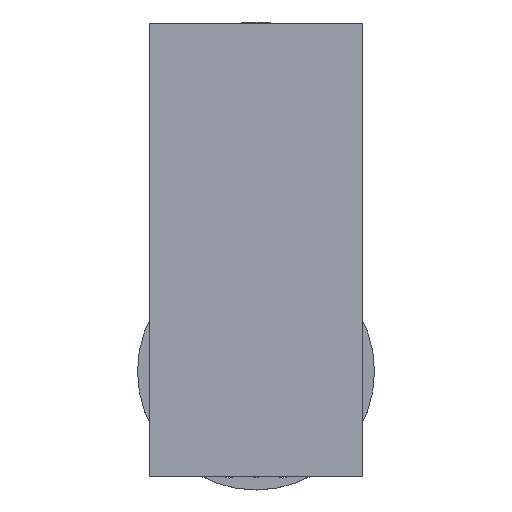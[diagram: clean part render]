
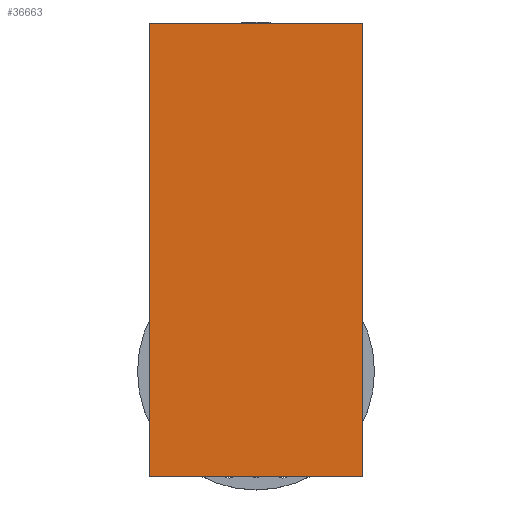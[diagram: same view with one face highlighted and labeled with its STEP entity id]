
A CAD part, top view. The second image highlights one B-rep face of the part: STEP entity #36663.
In plain terms, the highlighted planar face has unit normal (0, 0, 1) as drawn and (0, 0, -1) by its records, which use the part's own axes.
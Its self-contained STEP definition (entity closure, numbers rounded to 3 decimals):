
#462 = VECTOR ( 'NONE', #15786, 1000. ) ;
#1125 = CARTESIAN_POINT ( 'NONE',  ( -180., 0., -385. ) ) ;
#2019 = DIRECTION ( 'NONE',  ( 0., 0., -1. ) ) ;
#3868 = EDGE_CURVE ( 'NONE', #6394, #20933, #15623, .T. ) ;
#5828 = CARTESIAN_POINT ( 'NONE',  ( 180., 585., -385. ) ) ;
#6383 = VERTEX_POINT ( 'NONE', #19647 ) ;
#6394 = VERTEX_POINT ( 'NONE', #16522 ) ;
#7294 = ORIENTED_EDGE ( 'NONE', *, *, #11400, .T. ) ;
#8030 = CARTESIAN_POINT ( 'NONE',  ( 0., 0., -385. ) ) ;
#8991 = VECTOR ( 'NONE', #25483, 1000. ) ;
#9069 = EDGE_CURVE ( 'NONE', #27226, #6383, #26083, .T. ) ;
#11123 = AXIS2_PLACEMENT_3D ( 'NONE', #8030, #2019, #27445 ) ;
#11400 = EDGE_CURVE ( 'NONE', #20933, #6383, #32625, .T. ) ;
#13218 = VECTOR ( 'NONE', #18664, 1000. ) ;
#14436 = VECTOR ( 'NONE', #34306, 1000. ) ;
#15269 = ORIENTED_EDGE ( 'NONE', *, *, #32699, .F. ) ;
#15623 = LINE ( 'NONE', #37173, #13218 ) ;
#15786 = DIRECTION ( 'NONE',  ( 0., 1., 0. ) ) ;
#15918 = CARTESIAN_POINT ( 'NONE',  ( 180., 0., -385. ) ) ;
#16522 = CARTESIAN_POINT ( 'NONE',  ( 180., -180., -385. ) ) ;
#17477 = CARTESIAN_POINT ( 'NONE',  ( -180., -180., -385. ) ) ;
#18664 = DIRECTION ( 'NONE',  ( -1., 0., 0. ) ) ;
#19647 = CARTESIAN_POINT ( 'NONE',  ( -180., 585., -385. ) ) ;
#20933 = VERTEX_POINT ( 'NONE', #17477 ) ;
#22436 = CARTESIAN_POINT ( 'NONE',  ( 0., 585., -385. ) ) ;
#25168 = ORIENTED_EDGE ( 'NONE', *, *, #3868, .T. ) ;
#25483 = DIRECTION ( 'NONE',  ( 0., 1., 0. ) ) ;
#26083 = LINE ( 'NONE', #22436, #14436 ) ;
#26514 = PLANE ( 'NONE',  #11123 ) ;
#27226 = VERTEX_POINT ( 'NONE', #5828 ) ;
#27445 = DIRECTION ( 'NONE',  ( -1., 0., 0. ) ) ;
#31229 = FACE_OUTER_BOUND ( 'NONE', #39576, .T. ) ;
#32625 = LINE ( 'NONE', #1125, #8991 ) ;
#32699 = EDGE_CURVE ( 'NONE', #6394, #27226, #34186, .T. ) ;
#32722 = ORIENTED_EDGE ( 'NONE', *, *, #9069, .F. ) ;
#34186 = LINE ( 'NONE', #15918, #462 ) ;
#34306 = DIRECTION ( 'NONE',  ( -1., 0., 0. ) ) ;
#36663 = ADVANCED_FACE ( 'NONE', ( #31229 ), #26514, .T. ) ;
#37173 = CARTESIAN_POINT ( 'NONE',  ( 0., -180., -385. ) ) ;
#39576 = EDGE_LOOP ( 'NONE', ( #25168, #7294, #32722, #15269 ) ) ;
